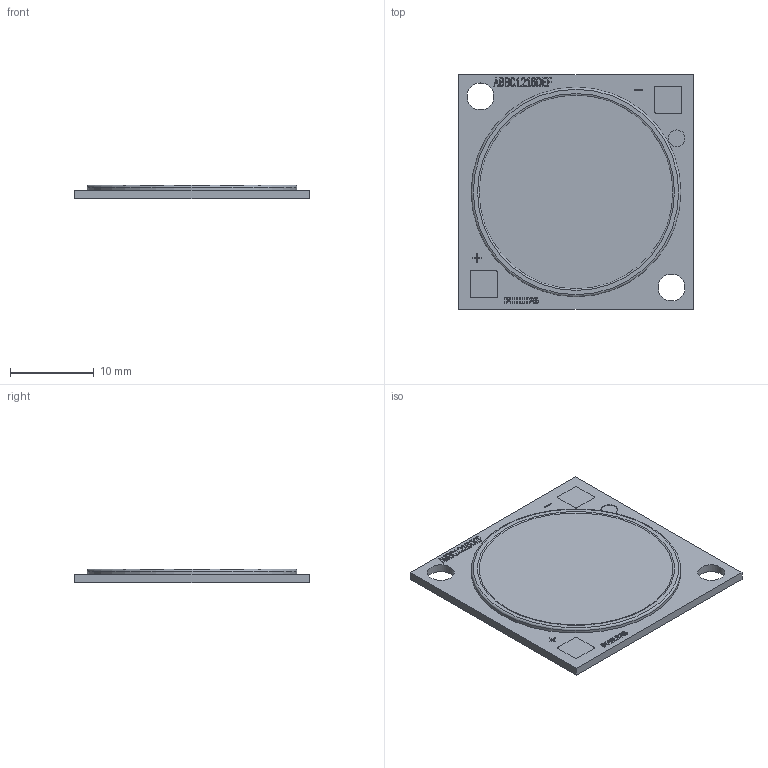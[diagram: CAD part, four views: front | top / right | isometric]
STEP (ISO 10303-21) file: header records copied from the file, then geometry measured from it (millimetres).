
FILE_DESCRIPTION(/* description */ (''),/* implementation_level */ '2;1');
FILE_NAME(/* name */ 'G7 HE+ 1216.stp',/* time_stamp */ '2023-03-14T18:18:56+08:00',/* author */ (''),/* organization */ (''),/* preprocessor_version */ 'ST-DEVELOPER v16',/* originating_system */ 'SIEMENS PLM Software NX 10.0',/* authorisation */ '');
FILE_SCHEMA (('AUTOMOTIVE_DESIGN { 1 0 10303 214 3 1 1 1 }'));
Length unit declared in the file: millimetre
Products named in the file (1): 31003E3C1351hwro
Bounding box: 28 x 28 x 1.6 mm (x, y, z)
Volume: 1030.9 mm3; surface area: 1710.3 mm2
Topology: 1 solids, 1 shells, 450 faces, 1239 edges, 826 vertices
Faces by surface type: plane 396, extrusion 28, cylinder 24, torus 2
Full cylindrical faces by diameter (mm): 2 x1, 3.2 x2, 25 x1
Entity records: 15003 total; most frequent: CARTESIAN_POINT 3676, ORIENTED_EDGE 2464, DIRECTION 1961, EDGE_CURVE 1232, VECTOR 1013, LINE 985, VERTEX_POINT 825, EDGE_LOOP 495
